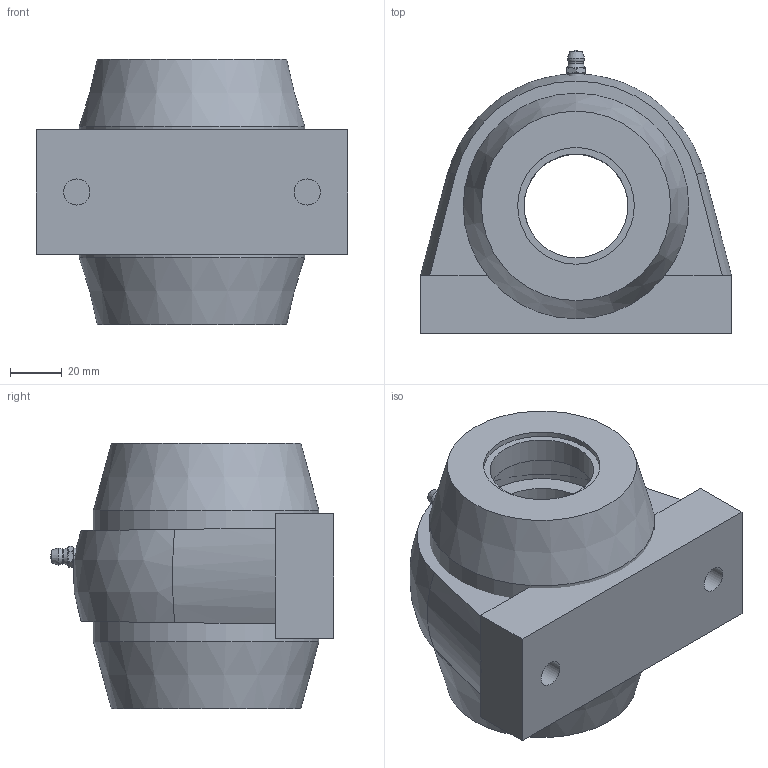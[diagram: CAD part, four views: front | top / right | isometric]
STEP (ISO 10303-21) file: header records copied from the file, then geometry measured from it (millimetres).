
FILE_DESCRIPTION(/* description */ (''),/* implementation_level */ '2;1');
FILE_NAME(/* name */ 'C:\Users\UGijyutu_200702\Desktop\77.プラスチックハウジング\MBTBL200V\MBTBL200VC\MBTBL208VC.stp',/* time_stamp */ '2024-05-28T13:01:17+09:00',/* author */ ('UGijyutu_200702'),/* organization */ (''),/* preprocessor_version */ 'ST-DEVELOPER v18',/* originating_system */ 'Autodesk Inventor 2020',/* authorisation */ '');
FILE_SCHEMA (('AUTOMOTIVE_DESIGN { 1 0 10303 214 3 1 1 }'));
Length unit declared in the file: millimetre
Products named in the file (5): MBTBL208V; TBL208; MB8 V; 1/4-28UNF-2A; 208C
Assembly tree (5 placements, depth 2):
  MBTBL208V
    TBL208
    MB8 V
    1/4-28UNF-2A
    208C  x2
Bounding box: 120 x 109.3 x 102.6 mm (x, y, z)
Volume: 343460.3 mm3; surface area: 112209 mm2
Topology: 5 solids, 5 shells, 109 faces, 263 edges, 181 vertices
Faces by surface type: plane 56, cylinder 27, cone 19, sphere 5, torus 2
Full cylindrical faces by diameter (mm): 3.2 x1, 5.359 x1, 6 x2, 6.35 x1, 10.106 x2, 40 x3, 45 x2, 53 x1, 56 x2, 83 x2, 83.7 x2, 87 x2
Entity records: 3365 total; most frequent: CARTESIAN_POINT 761, DIRECTION 525, ORIENTED_EDGE 474, EDGE_CURVE 237, AXIS2_PLACEMENT_3D 219, VERTEX_POINT 163, EDGE_LOOP 120, CIRCLE 102
